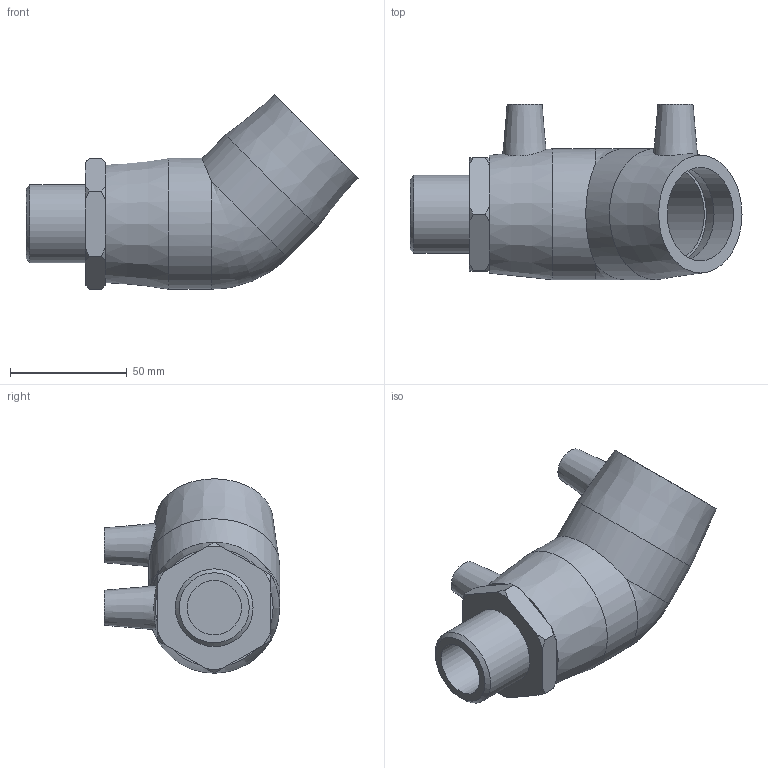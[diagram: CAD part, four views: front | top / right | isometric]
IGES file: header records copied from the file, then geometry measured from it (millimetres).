
Global section: file name: 492604040010.ipt; native system: Autodesk Inventor 2015; preprocessor: unknown; author: KIM; date: 20200202.122416; units: millimetre
Bounding box: 142 x 75 x 83.17 mm (x, y, z)
Volume: 190321.2 mm3; surface area: 45347.5 mm2
Topology: 1 solids, 2 shells, 59 faces, 142 edges, 97 vertices
Faces by surface type: plane 24, cone 17, revolution 10, cylinder 7, bspline 1
Full cylindrical faces by diameter (mm): 4 x2, 33.249 x1, 40 x2, 56 x2
